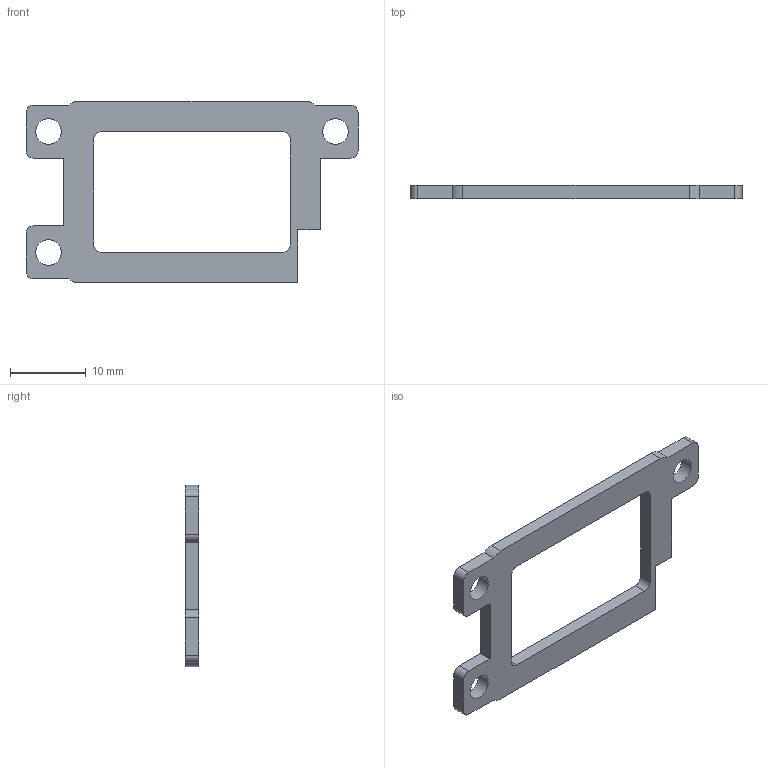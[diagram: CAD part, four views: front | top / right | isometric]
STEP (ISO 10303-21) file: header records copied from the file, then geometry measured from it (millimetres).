
FILE_DESCRIPTION(('Open CASCADE Model'),'2;1');
FILE_NAME('Open CASCADE Shape Model','2026-10-01T12:35:22',('Author'),( 'Open CASCADE'),'Open CASCADE STEP processor 7.8','Open CASCADE 7.8' ,'Unknown');
FILE_SCHEMA(('AUTOMOTIVE_DESIGN { 1 0 10303 214 1 1 1 1 }'));
Length unit declared in the file: millimetre
Products named in the file (2): P11_Speaker_retainer; P11_Speaker_retainer_solid
Assembly tree (1 placements, depth 2):
  P11_Speaker_retainer
    P11_Speaker_retainer_solid
Bounding box: 43.96 x 1.8 x 24 mm (x, y, z)
Volume: 817.9 mm3; surface area: 1370.5 mm2
Topology: 1 solids, 1 shells, 43 faces, 123 edges, 82 vertices
Faces by surface type: plane 24, cylinder 19
Full cylindrical faces by diameter (mm): 3.4 x3
Entity records: 3069 total; most frequent: CARTESIAN_POINT 620, DIRECTION 443, LINE 253, VECTOR 253, ORIENTED_EDGE 246, PCURVE 246, DEFINITIONAL_REPRESENTATION 246, EDGE_CURVE 123
